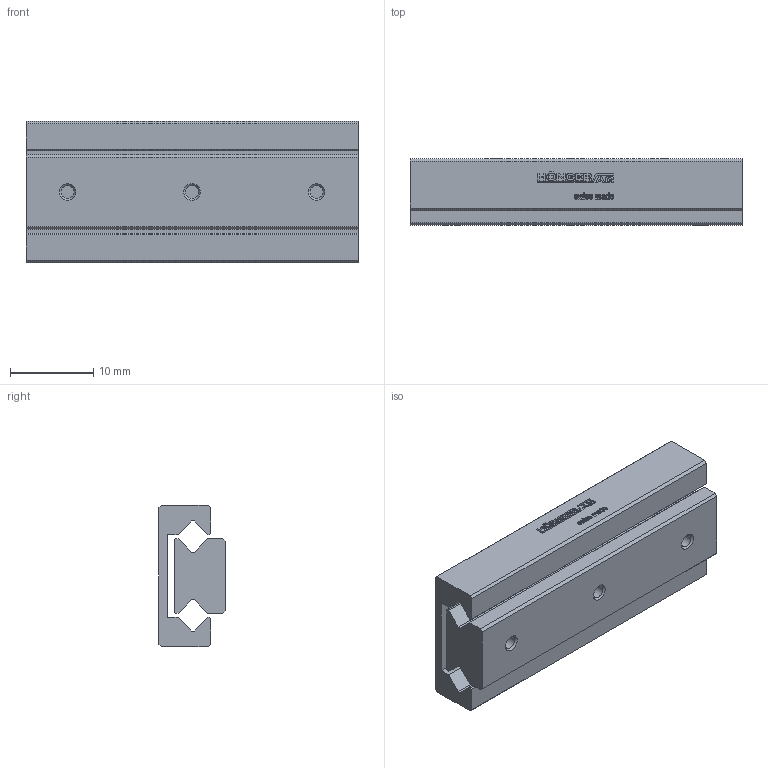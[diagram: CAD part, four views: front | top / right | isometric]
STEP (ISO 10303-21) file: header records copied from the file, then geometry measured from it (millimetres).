
FILE_DESCRIPTION(/* description */ ('STEP AP214'),/* implementation_level */ '2;1');
FILE_NAME(/* name */ 'MSR 7-40.30(0)',/* time_stamp */ '2025-04-16T17:21:06+02:00',/* author */ ('License CC BY-ND 4.0'),/* organization */ ('CADENAS'),/* preprocessor_version */ 'ST-DEVELOPER v19.3',/* originating_system */ 'PARTsolutions',/* authorisation */ ' ');
FILE_SCHEMA (('AUTOMOTIVE_DESIGN {1 0 10303 214 3 1 1}'));
Length unit declared in the file: millimetre
Products named in the file (3): MSR 7-40.30(0); MSR 7-40.30_1; MSR 7-40.30_2
Assembly tree (2 placements, depth 2):
  MSR 7-40.30(0)
    MSR 7-40.30_1
    MSR 7-40.30_2
Bounding box: 40 x 8 x 17 mm (x, y, z)
Volume: 3763 mm3; surface area: 4005.6 mm2
Topology: 2 solids, 2 shells, 532 faces, 1491 edges, 990 vertices
Faces by surface type: cylinder 305, plane 215, cone 12
Full cylindrical faces by diameter (mm): 1.567 x9
Entity records: 17319 total; most frequent: DIRECTION 3162, CARTESIAN_POINT 2983, ORIENTED_EDGE 2928, EDGE_CURVE 1464, AXIS2_PLACEMENT_3D 1163, VERTEX_POINT 984, LINE 836, VECTOR 836
